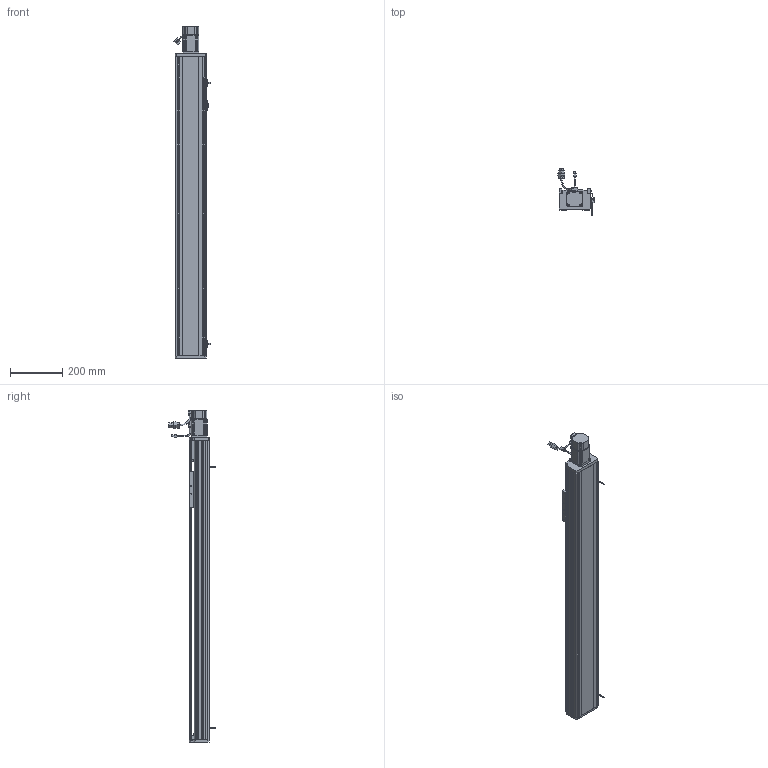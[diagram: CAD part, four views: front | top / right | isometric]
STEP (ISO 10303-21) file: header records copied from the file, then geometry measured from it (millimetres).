
FILE_DESCRIPTION (( 'STEP AP214' ), '1' );
FILE_NAME ('CTH120-900.STEP', '2019-11-20T02:44:35', ( '微软用户' ), ( '微软中国' ), 'SwSTEP 2.0', 'SolidWorks 2017', '' );
FILE_SCHEMA (( 'AUTOMOTIVE_DESIGN' ));
Length unit declared in the file: millimetre
Products named in the file (33): 120耀郪-侜督儂啣; 怢湛200W侜督萇儂ECMA-CX0602ES; SFH1605; 盓傅釱蚾饜极; 136蹟簽蟀諉輸; 6000; 120模组-移动座_默认<按加工>; 120耀郪-盓傅釱; SFH1605-450; M4-L16囀鞠褒蹟佪; 120模组-底座_默认<按加工>; EGH15-CA; EGH15_RAIL; CTH120-900; 珨极宒粣創釱; 遣喳蝶15x12x8; M4-L10囀鞠褒蹟佪; M4-L22囀鞠褒蹟佪; 7001-DB; 7001; 噩砃EGH15-CA; 粣創揤啣; M3-L8囀鞠褒蹟佪; COL12B-粣遠; CT12耀郪-覜茼んえ; 坶踡蹟譫; EE-SX672-BR; 120耀郪-粣創釱; M4-L6半圆头内六角螺丝; 120耀郪-傷啣; M5-L20囀鞠褒蹟佪; 120模组-盖子_默认<按加工>; M5-L12囀鞠褒蹟佪
Assembly tree (90 placements, depth 4):
  CTH120-900
    120模组-底座_默认<按加工>
    SFH1605-450
    120模组-移动座_默认<按加工>
    136蹟簽蟀諉輸
    SFH1605
    120耀郪-侜督儂啣
    120模组-盖子_默认<按加工>
    120耀郪-傷啣
    珨极宒粣創釱
      120耀郪-粣創釱
      坶踡蹟譫
      COL12B-粣遠  x2
      粣創揤啣
      7001-DB
        7001  x2
      M4-L22囀鞠褒蹟佪  x6
      M4-L10囀鞠褒蹟佪  x4
      遣喳蝶15x12x8
    EGH15_RAIL  x2
    EGH15-CA  x2
    M4-L16囀鞠褒蹟佪  x8
    M4-L10囀鞠褒蹟佪  x22
    盓傅釱蚾饜极
      120耀郪-盓傅釱
      6000
      遣喳蝶15x12x8  x2
      M4-L22囀鞠褒蹟佪  x2
    怢湛200W侜督萇儂ECMA-CX0602ES
    M5-L12囀鞠褒蹟佪  x3
    M5-L20囀鞠褒蹟佪  x4
    M4-L6半圆头内六角螺丝  x4
    EE-SX672-BR  x2
    CT12耀郪-覜茼んえ
    M3-L8囀鞠褒蹟佪  x4
    噩砃EGH15-CA  x2
Bounding box: 137.94 x 179.67 x 1272 mm (x, y, z)
Volume: 4765616.3 mm3; surface area: 1468410.1 mm2
Topology: 87 solids, 96 shells, 5398 faces, 14287 edges, 9149 vertices
Faces by surface type: plane 2897, cylinder 1618, cone 549, bspline 241, torus 81, sphere 12
Entity records: 115994 total; most frequent: CARTESIAN_POINT 34217, ORIENTED_EDGE 17264, DIRECTION 15571, EDGE_CURVE 8632, VERTEX_POINT 5667, AXIS2_PLACEMENT_3D 5326, LINE 4919, VECTOR 4919
